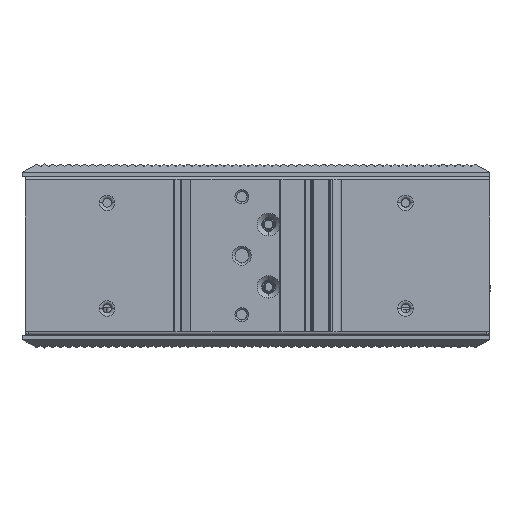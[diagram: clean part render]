
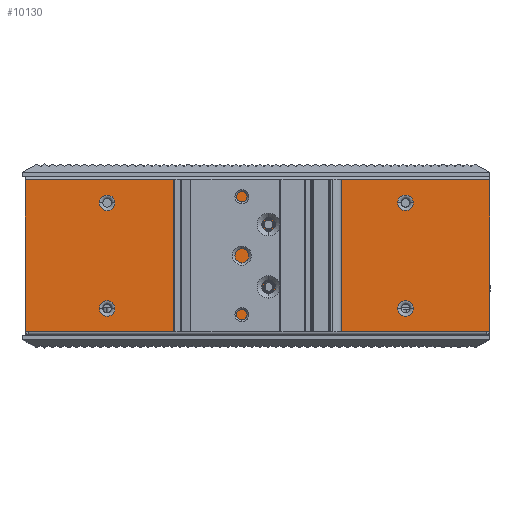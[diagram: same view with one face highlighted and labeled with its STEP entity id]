
A CAD part, top view. The second image highlights one B-rep face of the part: STEP entity #10130.
In plain terms, the highlighted planar face has unit normal (0, 0, 1).
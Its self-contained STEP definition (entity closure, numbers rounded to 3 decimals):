
#325=DIRECTION('',(-1.,0.,0.));
#326=VECTOR('',#325,1.);
#327=CARTESIAN_POINT('',(66.66,0.,46.3));
#328=LINE('',#327,#326);
#409=DIRECTION('',(-1.,0.,0.));
#410=VECTOR('',#409,1.);
#411=CARTESIAN_POINT('',(-66.34,0.,46.3));
#412=LINE('',#411,#410);
#421=DIRECTION('',(0.,-1.,0.));
#422=VECTOR('',#421,43.8);
#423=CARTESIAN_POINT('',(-67.34,43.8,46.3));
#424=LINE('',#423,#422);
#425=DIRECTION('',(0.,1.,0.));
#426=VECTOR('',#425,43.8);
#427=CARTESIAN_POINT('',(66.66,0.,46.3));
#428=LINE('',#427,#426);
#429=CARTESIAN_POINT('',(2.83,30.9,46.3));
#430=DIRECTION('',(0.,0.,-1.));
#431=DIRECTION('',(1.,0.,0.));
#432=AXIS2_PLACEMENT_3D('',#429,#430,#431);
#434=CARTESIAN_POINT('',(2.83,30.9,46.3));
#435=DIRECTION('',(0.,0.,-1.));
#436=DIRECTION('',(-1.,0.,0.));
#437=AXIS2_PLACEMENT_3D('',#434,#435,#436);
#439=CARTESIAN_POINT('',(2.83,12.9,46.3));
#440=DIRECTION('',(0.,0.,-1.));
#441=DIRECTION('',(1.,0.,0.));
#442=AXIS2_PLACEMENT_3D('',#439,#440,#441);
#444=CARTESIAN_POINT('',(2.83,12.9,46.3));
#445=DIRECTION('',(0.,0.,-1.));
#446=DIRECTION('',(-1.,0.,0.));
#447=AXIS2_PLACEMENT_3D('',#444,#445,#446);
#449=CARTESIAN_POINT('',(42.36,6.65,46.3));
#450=DIRECTION('',(0.,0.,-1.));
#451=DIRECTION('',(-1.,0.,0.));
#452=AXIS2_PLACEMENT_3D('',#449,#450,#451);
#454=CARTESIAN_POINT('',(42.36,6.65,46.3));
#455=DIRECTION('',(0.,0.,-1.));
#456=DIRECTION('',(1.,0.,0.));
#457=AXIS2_PLACEMENT_3D('',#454,#455,#456);
#459=CARTESIAN_POINT('',(42.36,37.15,46.3));
#460=DIRECTION('',(0.,0.,-1.));
#461=DIRECTION('',(-1.,0.,0.));
#462=AXIS2_PLACEMENT_3D('',#459,#460,#461);
#464=CARTESIAN_POINT('',(42.36,37.15,46.3));
#465=DIRECTION('',(0.,0.,-1.));
#466=DIRECTION('',(1.,0.,0.));
#467=AXIS2_PLACEMENT_3D('',#464,#465,#466);
#469=CARTESIAN_POINT('',(-43.78,6.65,46.3));
#470=DIRECTION('',(0.,0.,-1.));
#471=DIRECTION('',(-1.,0.,0.));
#472=AXIS2_PLACEMENT_3D('',#469,#470,#471);
#474=CARTESIAN_POINT('',(-43.78,6.65,46.3));
#475=DIRECTION('',(0.,0.,-1.));
#476=DIRECTION('',(1.,0.,0.));
#477=AXIS2_PLACEMENT_3D('',#474,#475,#476);
#479=CARTESIAN_POINT('',(-43.78,37.15,46.3));
#480=DIRECTION('',(0.,0.,-1.));
#481=DIRECTION('',(-1.,0.,0.));
#482=AXIS2_PLACEMENT_3D('',#479,#480,#481);
#484=CARTESIAN_POINT('',(-43.78,37.15,46.3));
#485=DIRECTION('',(0.,0.,-1.));
#486=DIRECTION('',(1.,0.,0.));
#487=AXIS2_PLACEMENT_3D('',#484,#485,#486);
#493=DIRECTION('',(-1.,0.,0.));
#494=VECTOR('',#493,132.);
#495=CARTESIAN_POINT('',(65.66,0.,46.3));
#496=LINE('',#495,#494);
#6597=DIRECTION('',(1.,0.,0.));
#6598=VECTOR('',#6597,134.);
#6599=CARTESIAN_POINT('',(-67.34,43.8,46.3));
#6600=LINE('',#6599,#6598);
#6617=CARTESIAN_POINT('',(42.36,6.65,46.3));
#6618=DIRECTION('',(0.,0.,1.));
#6619=DIRECTION('',(1.,0.,0.));
#6620=AXIS2_PLACEMENT_3D('',#6617,#6618,#6619);
#6637=CARTESIAN_POINT('',(42.36,6.65,46.3));
#6638=DIRECTION('',(0.,0.,1.));
#6639=DIRECTION('',(-1.,0.,0.));
#6640=AXIS2_PLACEMENT_3D('',#6637,#6638,#6639);
#6701=CARTESIAN_POINT('',(42.36,37.15,46.3));
#6702=DIRECTION('',(0.,0.,1.));
#6703=DIRECTION('',(1.,0.,0.));
#6704=AXIS2_PLACEMENT_3D('',#6701,#6702,#6703);
#6721=CARTESIAN_POINT('',(42.36,37.15,46.3));
#6722=DIRECTION('',(0.,0.,1.));
#6723=DIRECTION('',(-1.,0.,0.));
#6724=AXIS2_PLACEMENT_3D('',#6721,#6722,#6723);
#6785=CARTESIAN_POINT('',(-43.78,6.65,46.3));
#6786=DIRECTION('',(0.,0.,1.));
#6787=DIRECTION('',(1.,0.,0.));
#6788=AXIS2_PLACEMENT_3D('',#6785,#6786,#6787);
#6805=CARTESIAN_POINT('',(-43.78,6.65,46.3));
#6806=DIRECTION('',(0.,0.,1.));
#6807=DIRECTION('',(-1.,0.,0.));
#6808=AXIS2_PLACEMENT_3D('',#6805,#6806,#6807);
#6869=CARTESIAN_POINT('',(-43.78,37.15,46.3));
#6870=DIRECTION('',(0.,0.,1.));
#6871=DIRECTION('',(1.,0.,0.));
#6872=AXIS2_PLACEMENT_3D('',#6869,#6870,#6871);
#6889=CARTESIAN_POINT('',(-43.78,37.15,46.3));
#6890=DIRECTION('',(0.,0.,1.));
#6891=DIRECTION('',(-1.,0.,0.));
#6892=AXIS2_PLACEMENT_3D('',#6889,#6890,#6891);
#7452=CARTESIAN_POINT('',(-66.34,0.,46.3));
#7453=VERTEX_POINT('',#7452);
#7454=CARTESIAN_POINT('',(-67.34,0.,46.3));
#7455=VERTEX_POINT('',#7454);
#7456=CARTESIAN_POINT('',(66.66,0.,46.3));
#7457=VERTEX_POINT('',#7456);
#7458=CARTESIAN_POINT('',(65.66,0.,46.3));
#7459=VERTEX_POINT('',#7458);
#7510=CARTESIAN_POINT('',(-67.34,43.8,46.3));
#7511=VERTEX_POINT('',#7510);
#7512=CARTESIAN_POINT('',(66.66,43.8,46.3));
#7513=VERTEX_POINT('',#7512);
#7578=CARTESIAN_POINT('',(1.33,30.9,46.3));
#7579=VERTEX_POINT('',#7578);
#7580=CARTESIAN_POINT('',(4.33,30.9,46.3));
#7581=VERTEX_POINT('',#7580);
#7654=CARTESIAN_POINT('',(1.33,12.9,46.3));
#7655=VERTEX_POINT('',#7654);
#7656=CARTESIAN_POINT('',(4.33,12.9,46.3));
#7657=VERTEX_POINT('',#7656);
#7900=CARTESIAN_POINT('',(44.61,6.649,46.3));
#7901=CARTESIAN_POINT('',(44.61,6.687,46.3));
#7902=VERTEX_POINT('',#7900);
#7903=VERTEX_POINT('',#7901);
#7904=CARTESIAN_POINT('',(40.11,6.651,46.3));
#7905=VERTEX_POINT('',#7904);
#7966=CARTESIAN_POINT('',(44.61,37.149,46.3));
#7967=CARTESIAN_POINT('',(44.61,37.187,46.3));
#7968=VERTEX_POINT('',#7966);
#7969=VERTEX_POINT('',#7967);
#7970=CARTESIAN_POINT('',(40.11,37.151,46.3));
#7971=VERTEX_POINT('',#7970);
#7972=CARTESIAN_POINT('',(40.11,6.613,46.3));
#7973=VERTEX_POINT('',#7972);
#8024=CARTESIAN_POINT('',(-41.53,6.649,46.3));
#8025=CARTESIAN_POINT('',(-41.53,6.687,46.3));
#8026=VERTEX_POINT('',#8024);
#8027=VERTEX_POINT('',#8025);
#8028=CARTESIAN_POINT('',(-46.03,6.651,46.3));
#8029=VERTEX_POINT('',#8028);
#8030=CARTESIAN_POINT('',(40.11,37.113,46.3));
#8031=VERTEX_POINT('',#8030);
#8094=CARTESIAN_POINT('',(-41.53,37.149,46.3));
#8095=CARTESIAN_POINT('',(-41.53,37.187,46.3));
#8096=VERTEX_POINT('',#8094);
#8097=VERTEX_POINT('',#8095);
#8098=CARTESIAN_POINT('',(-46.03,37.151,46.3));
#8099=VERTEX_POINT('',#8098);
#8100=CARTESIAN_POINT('',(-46.03,6.613,46.3));
#8101=VERTEX_POINT('',#8100);
#8154=CARTESIAN_POINT('',(-46.03,37.113,46.3));
#8155=VERTEX_POINT('',#8154);
#10061=CARTESIAN_POINT('',(-66.34,0.,46.3));
#10062=DIRECTION('',(0.,0.,-1.));
#10063=DIRECTION('',(-1.,0.,0.));
#10064=AXIS2_PLACEMENT_3D('',#10061,#10062,#10063);
#10065=PLANE('',#10064);
#10066=ORIENTED_EDGE('',*,*,#9984,.T.);
#10068=ORIENTED_EDGE('',*,*,#10067,.T.);
#10069=ORIENTED_EDGE('',*,*,#10051,.T.);
#10071=ORIENTED_EDGE('',*,*,#10070,.F.);
#10073=ORIENTED_EDGE('',*,*,#10072,.T.);
#10075=ORIENTED_EDGE('',*,*,#10074,.F.);
#10076=EDGE_LOOP('',(#10066,#10068,#10069,#10071,#10073,#10075));
#10077=FACE_OUTER_BOUND('',#10076,.F.);
#10079=ORIENTED_EDGE('',*,*,#10078,.F.);
#10081=ORIENTED_EDGE('',*,*,#10080,.F.);
#10082=EDGE_LOOP('',(#10079,#10081));
#10083=FACE_BOUND('',#10082,.F.);
#10085=ORIENTED_EDGE('',*,*,#10084,.F.);
#10087=ORIENTED_EDGE('',*,*,#10086,.F.);
#10088=EDGE_LOOP('',(#10085,#10087));
#10089=FACE_BOUND('',#10088,.F.);
#10091=ORIENTED_EDGE('',*,*,#10090,.F.);
#10093=ORIENTED_EDGE('',*,*,#10092,.T.);
#10095=ORIENTED_EDGE('',*,*,#10094,.F.);
#10097=ORIENTED_EDGE('',*,*,#10096,.T.);
#10098=EDGE_LOOP('',(#10091,#10093,#10095,#10097));
#10099=FACE_BOUND('',#10098,.F.);
#10101=ORIENTED_EDGE('',*,*,#10100,.F.);
#10103=ORIENTED_EDGE('',*,*,#10102,.T.);
#10105=ORIENTED_EDGE('',*,*,#10104,.F.);
#10107=ORIENTED_EDGE('',*,*,#10106,.T.);
#10108=EDGE_LOOP('',(#10101,#10103,#10105,#10107));
#10109=FACE_BOUND('',#10108,.F.);
#10111=ORIENTED_EDGE('',*,*,#10110,.F.);
#10113=ORIENTED_EDGE('',*,*,#10112,.T.);
#10115=ORIENTED_EDGE('',*,*,#10114,.F.);
#10117=ORIENTED_EDGE('',*,*,#10116,.T.);
#10118=EDGE_LOOP('',(#10111,#10113,#10115,#10117));
#10119=FACE_BOUND('',#10118,.F.);
#10121=ORIENTED_EDGE('',*,*,#10120,.F.);
#10123=ORIENTED_EDGE('',*,*,#10122,.T.);
#10125=ORIENTED_EDGE('',*,*,#10124,.F.);
#10127=ORIENTED_EDGE('',*,*,#10126,.T.);
#10128=EDGE_LOOP('',(#10121,#10123,#10125,#10127));
#10129=FACE_BOUND('',#10128,.F.);
#10130=ADVANCED_FACE('',(#10077,#10083,#10089,#10099,#10109,#10119,#10129),
#10065,.F.);
#433=CIRCLE('',#432,1.5);
#438=CIRCLE('',#437,1.5);
#443=CIRCLE('',#442,1.5);
#448=CIRCLE('',#447,1.5);
#453=CIRCLE('',#452,2.25);
#458=CIRCLE('',#457,2.25);
#463=CIRCLE('',#462,2.25);
#468=CIRCLE('',#467,2.25);
#473=CIRCLE('',#472,2.25);
#478=CIRCLE('',#477,2.25);
#483=CIRCLE('',#482,2.25);
#488=CIRCLE('',#487,2.25);
#6621=CIRCLE('',#6620,2.25);
#6641=CIRCLE('',#6640,2.25);
#6705=CIRCLE('',#6704,2.25);
#6725=CIRCLE('',#6724,2.25);
#6789=CIRCLE('',#6788,2.25);
#6809=CIRCLE('',#6808,2.25);
#6873=CIRCLE('',#6872,2.25);
#6893=CIRCLE('',#6892,2.25);
#9984=EDGE_CURVE('',#7457,#7459,#328,.T.);
#10051=EDGE_CURVE('',#7453,#7455,#412,.T.);
#10067=EDGE_CURVE('',#7459,#7453,#496,.T.);
#10070=EDGE_CURVE('',#7511,#7455,#424,.T.);
#10072=EDGE_CURVE('',#7511,#7513,#6600,.T.);
#10074=EDGE_CURVE('',#7457,#7513,#428,.T.);
#10078=EDGE_CURVE('',#7581,#7579,#433,.T.);
#10080=EDGE_CURVE('',#7579,#7581,#438,.T.);
#10084=EDGE_CURVE('',#7657,#7655,#443,.T.);
#10086=EDGE_CURVE('',#7655,#7657,#448,.T.);
#10090=EDGE_CURVE('',#7905,#7903,#453,.T.);
#10092=EDGE_CURVE('',#7905,#7973,#6641,.T.);
#10094=EDGE_CURVE('',#7902,#7973,#458,.T.);
#10096=EDGE_CURVE('',#7902,#7903,#6621,.T.);
#10100=EDGE_CURVE('',#7971,#7969,#463,.T.);
#10102=EDGE_CURVE('',#7971,#8031,#6725,.T.);
#10104=EDGE_CURVE('',#7968,#8031,#468,.T.);
#10106=EDGE_CURVE('',#7968,#7969,#6705,.T.);
#10110=EDGE_CURVE('',#8029,#8027,#473,.T.);
#10112=EDGE_CURVE('',#8029,#8101,#6809,.T.);
#10114=EDGE_CURVE('',#8026,#8101,#478,.T.);
#10116=EDGE_CURVE('',#8026,#8027,#6789,.T.);
#10120=EDGE_CURVE('',#8099,#8097,#483,.T.);
#10122=EDGE_CURVE('',#8099,#8155,#6893,.T.);
#10124=EDGE_CURVE('',#8096,#8155,#488,.T.);
#10126=EDGE_CURVE('',#8096,#8097,#6873,.T.);
